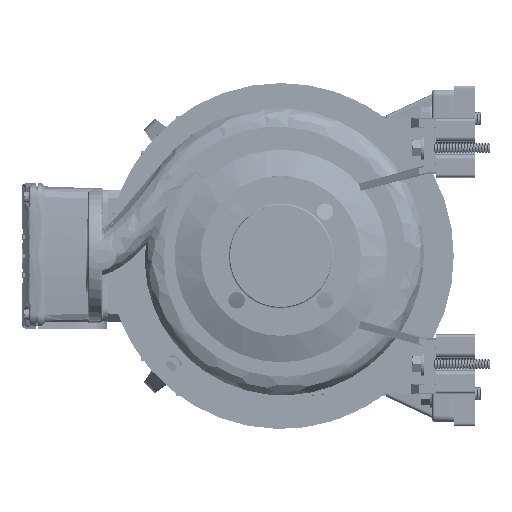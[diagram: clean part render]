
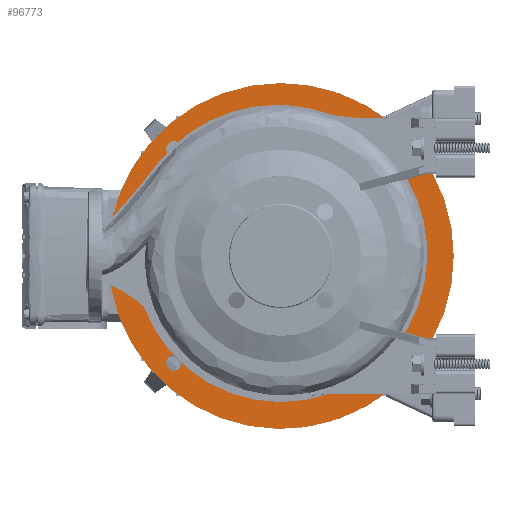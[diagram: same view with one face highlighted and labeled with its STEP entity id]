
A CAD part, left-side view. The second image highlights one B-rep face of the part: STEP entity #96773.
In plain terms, the highlighted planar face has unit normal (-1, 0, 0).
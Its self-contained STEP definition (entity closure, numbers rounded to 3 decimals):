
#2119 = CIRCLE ( 'NONE', #180317, 152.679 ) ;
#4488 = CARTESIAN_POINT ( 'NONE',  ( 211.876, 241.029, 400.358 ) ) ;
#5940 = CARTESIAN_POINT ( 'NONE',  ( 211.876, 117.285, 533.102 ) ) ;
#9617 = EDGE_CURVE ( 'NONE', #154360, #104242, #269151, .T. ) ;
#11431 = VERTEX_POINT ( 'NONE', #36384 ) ;
#12144 = EDGE_CURVE ( 'NONE', #283644, #83430, #84555, .T. ) ;
#12933 = ORIENTED_EDGE ( 'NONE', *, *, #18930, .F. ) ;
#13383 = EDGE_CURVE ( 'NONE', #41032, #241249, #163887, .T. ) ;
#15231 = CARTESIAN_POINT ( 'NONE',  ( 211.876, 241.029, 200.358 ) ) ;
#18134 = DIRECTION ( 'NONE',  ( 0., 0., -1. ) ) ;
#18930 = EDGE_CURVE ( 'NONE', #151358, #249140, #162639, .T. ) ;
#25093 = CARTESIAN_POINT ( 'NONE',  ( 211.876, 241.029, 400.358 ) ) ;
#26275 = CIRCLE ( 'NONE', #175580, 9. ) ;
#29118 = AXIS2_PLACEMENT_3D ( 'NONE', #74899, #52242, #142781 ) ;
#33256 = CIRCLE ( 'NONE', #216579, 9. ) ;
#34933 = EDGE_CURVE ( 'NONE', #249140, #151358, #144351, .T. ) ;
#35550 = EDGE_LOOP ( 'NONE', ( #289603, #276462 ) ) ;
#35576 = EDGE_CURVE ( 'NONE', #241249, #41032, #245852, .T. ) ;
#36384 = CARTESIAN_POINT ( 'NONE',  ( 211.876, 89.237, 383.92 ) ) ;
#38150 = CIRCLE ( 'NONE', #168217, 9. ) ;
#41032 = VERTEX_POINT ( 'NONE', #5940 ) ;
#42066 = DIRECTION ( 'NONE',  ( 0., 0., 1. ) ) ;
#44232 = CARTESIAN_POINT ( 'NONE',  ( 211.876, 364.773, 276.614 ) ) ;
#45993 = AXIS2_PLACEMENT_3D ( 'NONE', #206382, #253133, #183725 ) ;
#46467 = ORIENTED_EDGE ( 'NONE', *, *, #121064, .T. ) ;
#49640 = CIRCLE ( 'NONE', #276256, 152.679 ) ;
#52242 = DIRECTION ( 'NONE',  ( 1., 0., 0. ) ) ;
#53427 = DIRECTION ( 'NONE',  ( 1., 0., 0. ) ) ;
#55370 = CARTESIAN_POINT ( 'NONE',  ( 211.876, 117.285, 515.102 ) ) ;
#56256 = CIRCLE ( 'NONE', #229839, 152.679 ) ;
#59698 = ORIENTED_EDGE ( 'NONE', *, *, #147157, .T. ) ;
#60426 = DIRECTION ( 'NONE',  ( 0., 0., -1. ) ) ;
#61668 = DIRECTION ( 'NONE',  ( 0., 0., 1. ) ) ;
#72466 = DIRECTION ( 'NONE',  ( 0., 0., -1. ) ) ;
#74899 = CARTESIAN_POINT ( 'NONE',  ( 211.876, 117.285, 524.102 ) ) ;
#75901 = DIRECTION ( 'NONE',  ( 1., 0., 0. ) ) ;
#77821 = CIRCLE ( 'NONE', #78471, 9. ) ;
#78471 = AXIS2_PLACEMENT_3D ( 'NONE', #117432, #209510, #94811 ) ;
#81815 = CARTESIAN_POINT ( 'NONE',  ( 211.876, 364.773, 285.614 ) ) ;
#83430 = VERTEX_POINT ( 'NONE', #217445 ) ;
#83476 = ORIENTED_EDGE ( 'NONE', *, *, #13383, .T. ) ;
#84555 = CIRCLE ( 'NONE', #45993, 9. ) ;
#85865 = PLANE ( 'NONE',  #197570 ) ;
#88427 = DIRECTION ( 'NONE',  ( 1., 0., 0. ) ) ;
#90008 = DIRECTION ( 'NONE',  ( 0., 0., 1. ) ) ;
#94811 = DIRECTION ( 'NONE',  ( 0., 0., 1. ) ) ;
#96773 = ADVANCED_FACE ( 'NONE', ( #135555, #108498, #294138, #227633, #200597, #292660 ), #85865, .T. ) ;
#104242 = VERTEX_POINT ( 'NONE', #81815 ) ;
#108498 = FACE_BOUND ( 'NONE', #252302, .T. ) ;
#109352 = ORIENTED_EDGE ( 'NONE', *, *, #172059, .T. ) ;
#110650 = DIRECTION ( 'NONE',  ( 1., 0., 0. ) ) ;
#111588 = DIRECTION ( 'NONE',  ( 1., 0., 0. ) ) ;
#114117 = CARTESIAN_POINT ( 'NONE',  ( 211.876, 241.029, 400.358 ) ) ;
#114642 = DIRECTION ( 'NONE',  ( 1., 0., 0. ) ) ;
#117432 = CARTESIAN_POINT ( 'NONE',  ( 211.876, 117.285, 276.614 ) ) ;
#121064 = EDGE_CURVE ( 'NONE', #104242, #154360, #26275, .T. ) ;
#121466 = EDGE_CURVE ( 'NONE', #11431, #298286, #2119, .T. ) ;
#131246 = DIRECTION ( 'NONE',  ( 0., 0., 1. ) ) ;
#135555 = FACE_OUTER_BOUND ( 'NONE', #193296, .T. ) ;
#138238 = DIRECTION ( 'NONE',  ( 1., 0., 0. ) ) ;
#138869 = DIRECTION ( 'NONE',  ( 1., 0., 0. ) ) ;
#139265 = CARTESIAN_POINT ( 'NONE',  ( 211.876, 117.285, 285.614 ) ) ;
#140051 = AXIS2_PLACEMENT_3D ( 'NONE', #268380, #198993, #61668 ) ;
#142781 = DIRECTION ( 'NONE',  ( 0., 0., 1. ) ) ;
#144351 = CIRCLE ( 'NONE', #159028, 200. ) ;
#145264 = CARTESIAN_POINT ( 'NONE',  ( 211.876, 364.773, 276.614 ) ) ;
#145437 = CARTESIAN_POINT ( 'NONE',  ( 211.876, 364.773, 524.102 ) ) ;
#147157 = EDGE_CURVE ( 'NONE', #256371, #276347, #38150, .T. ) ;
#151358 = VERTEX_POINT ( 'NONE', #181634 ) ;
#153740 = EDGE_CURVE ( 'NONE', #83430, #283644, #77821, .T. ) ;
#154360 = VERTEX_POINT ( 'NONE', #167790 ) ;
#155159 = CIRCLE ( 'NONE', #140051, 23.5 ) ;
#159028 = AXIS2_PLACEMENT_3D ( 'NONE', #270087, #197742, #60426 ) ;
#159398 = CARTESIAN_POINT ( 'NONE',  ( 211.876, 364.773, 533.102 ) ) ;
#162420 = DIRECTION ( 'NONE',  ( 1., 0., 0. ) ) ;
#162617 = EDGE_CURVE ( 'NONE', #298286, #282707, #56256, .T. ) ;
#162639 = CIRCLE ( 'NONE', #210702, 200. ) ;
#163156 = AXIS2_PLACEMENT_3D ( 'NONE', #145264, #75901, #90008 ) ;
#163887 = CIRCLE ( 'NONE', #279584, 9. ) ;
#167790 = CARTESIAN_POINT ( 'NONE',  ( 211.876, 364.773, 267.614 ) ) ;
#168217 = AXIS2_PLACEMENT_3D ( 'NONE', #291304, #111588, #131246 ) ;
#172059 = EDGE_CURVE ( 'NONE', #233087, #11431, #155159, .T. ) ;
#175580 = AXIS2_PLACEMENT_3D ( 'NONE', #44232, #110650, #297798 ) ;
#177875 = CARTESIAN_POINT ( 'NONE',  ( 211.876, 241.029, 553.038 ) ) ;
#177924 = DIRECTION ( 'NONE',  ( -1., 0., 0. ) ) ;
#180317 = AXIS2_PLACEMENT_3D ( 'NONE', #4488, #138869, #72466 ) ;
#181634 = CARTESIAN_POINT ( 'NONE',  ( 211.876, 241.029, 600.358 ) ) ;
#182589 = CARTESIAN_POINT ( 'NONE',  ( 211.876, 241.029, 400.358 ) ) ;
#183655 = ORIENTED_EDGE ( 'NONE', *, *, #162617, .T. ) ;
#183725 = DIRECTION ( 'NONE',  ( 0., 0., 1. ) ) ;
#185172 = EDGE_LOOP ( 'NONE', ( #254101, #83476 ) ) ;
#191451 = CARTESIAN_POINT ( 'NONE',  ( 211.876, 364.773, 515.102 ) ) ;
#193296 = EDGE_LOOP ( 'NONE', ( #293494, #12933 ) ) ;
#197570 = AXIS2_PLACEMENT_3D ( 'NONE', #226157, #177924, #42066 ) ;
#197742 = DIRECTION ( 'NONE',  ( 1., 0., 0. ) ) ;
#198993 = DIRECTION ( 'NONE',  ( 1., 0., 0. ) ) ;
#200184 = CARTESIAN_POINT ( 'NONE',  ( 211.876, 117.285, 524.102 ) ) ;
#200597 = FACE_BOUND ( 'NONE', #35550, .T. ) ;
#206236 = DIRECTION ( 'NONE',  ( 0., 0., -1. ) ) ;
#206382 = CARTESIAN_POINT ( 'NONE',  ( 211.876, 117.285, 276.614 ) ) ;
#209022 = CARTESIAN_POINT ( 'NONE',  ( 211.876, 89.237, 416.796 ) ) ;
#209510 = DIRECTION ( 'NONE',  ( 1., 0., 0. ) ) ;
#210702 = AXIS2_PLACEMENT_3D ( 'NONE', #114117, #138238, #296803 ) ;
#216579 = AXIS2_PLACEMENT_3D ( 'NONE', #145437, #53427, #237501 ) ;
#217445 = CARTESIAN_POINT ( 'NONE',  ( 211.876, 117.285, 267.614 ) ) ;
#219361 = EDGE_CURVE ( 'NONE', #276347, #256371, #33256, .T. ) ;
#224693 = EDGE_LOOP ( 'NONE', ( #59698, #289681 ) ) ;
#226157 = CARTESIAN_POINT ( 'NONE',  ( 211.876, 441.029, 400.358 ) ) ;
#227633 = FACE_BOUND ( 'NONE', #185172, .T. ) ;
#228093 = EDGE_CURVE ( 'NONE', #282707, #233087, #49640, .T. ) ;
#229839 = AXIS2_PLACEMENT_3D ( 'NONE', #25093, #162420, #206236 ) ;
#233087 = VERTEX_POINT ( 'NONE', #209022 ) ;
#236035 = ORIENTED_EDGE ( 'NONE', *, *, #228093, .T. ) ;
#237501 = DIRECTION ( 'NONE',  ( 0., 0., 1. ) ) ;
#241249 = VERTEX_POINT ( 'NONE', #55370 ) ;
#245852 = CIRCLE ( 'NONE', #29118, 9. ) ;
#249140 = VERTEX_POINT ( 'NONE', #15231 ) ;
#252302 = EDGE_LOOP ( 'NONE', ( #252578, #46467 ) ) ;
#252578 = ORIENTED_EDGE ( 'NONE', *, *, #9617, .T. ) ;
#253133 = DIRECTION ( 'NONE',  ( 1., 0., 0. ) ) ;
#254101 = ORIENTED_EDGE ( 'NONE', *, *, #35576, .T. ) ;
#256371 = VERTEX_POINT ( 'NONE', #191451 ) ;
#262718 = EDGE_LOOP ( 'NONE', ( #297861, #183655, #236035, #109352 ) ) ;
#268380 = CARTESIAN_POINT ( 'NONE',  ( 211.876, 106.031, 400.358 ) ) ;
#269151 = CIRCLE ( 'NONE', #163156, 9. ) ;
#270087 = CARTESIAN_POINT ( 'NONE',  ( 211.876, 241.029, 400.358 ) ) ;
#271012 = DIRECTION ( 'NONE',  ( 0., 0., 1. ) ) ;
#274182 = CARTESIAN_POINT ( 'NONE',  ( 211.876, 241.029, 247.679 ) ) ;
#276256 = AXIS2_PLACEMENT_3D ( 'NONE', #182589, #114642, #18134 ) ;
#276347 = VERTEX_POINT ( 'NONE', #159398 ) ;
#276462 = ORIENTED_EDGE ( 'NONE', *, *, #12144, .T. ) ;
#279584 = AXIS2_PLACEMENT_3D ( 'NONE', #200184, #88427, #271012 ) ;
#282707 = VERTEX_POINT ( 'NONE', #177875 ) ;
#283644 = VERTEX_POINT ( 'NONE', #139265 ) ;
#289603 = ORIENTED_EDGE ( 'NONE', *, *, #153740, .T. ) ;
#289681 = ORIENTED_EDGE ( 'NONE', *, *, #219361, .T. ) ;
#291304 = CARTESIAN_POINT ( 'NONE',  ( 211.876, 364.773, 524.102 ) ) ;
#292660 = FACE_BOUND ( 'NONE', #262718, .T. ) ;
#293494 = ORIENTED_EDGE ( 'NONE', *, *, #34933, .F. ) ;
#294138 = FACE_BOUND ( 'NONE', #224693, .T. ) ;
#296803 = DIRECTION ( 'NONE',  ( 0., 0., -1. ) ) ;
#297798 = DIRECTION ( 'NONE',  ( 0., 0., 1. ) ) ;
#297861 = ORIENTED_EDGE ( 'NONE', *, *, #121466, .T. ) ;
#298286 = VERTEX_POINT ( 'NONE', #274182 ) ;
